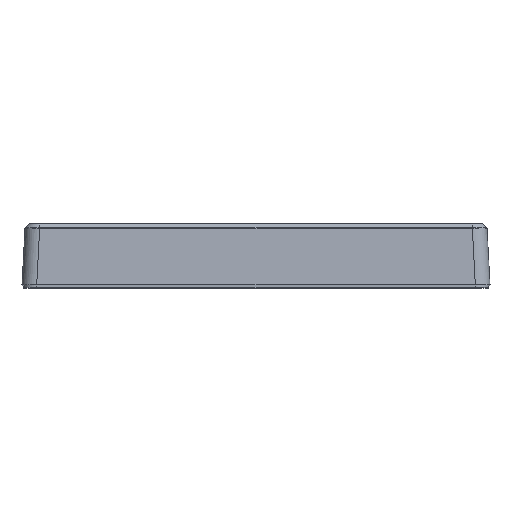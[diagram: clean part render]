
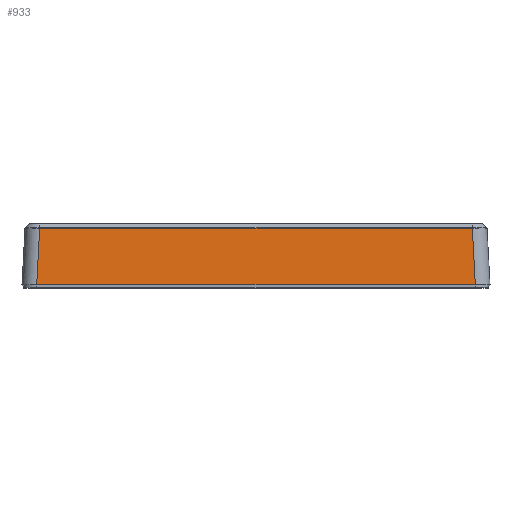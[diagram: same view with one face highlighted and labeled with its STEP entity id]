
A CAD part, top view. The second image highlights one B-rep face of the part: STEP entity #933.
In plain terms, the highlighted planar face has unit normal (0, 0.052, 0.999).
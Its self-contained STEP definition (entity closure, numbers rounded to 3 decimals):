
#756 = VERTEX_POINT ( 'NONE', #1895 ) ;
#763 = EDGE_CURVE ( 'NONE', #934, #783, #2060, .T. ) ;
#771 = EDGE_CURVE ( 'NONE', #756, #783, #2046, .T. ) ;
#782 = ORIENTED_EDGE ( 'NONE', *, *, #771, .T. ) ;
#783 = VERTEX_POINT ( 'NONE', #2136 ) ;
#907 = EDGE_CURVE ( 'NONE', #927, #756, #2279, .T. ) ;
#914 = ORIENTED_EDGE ( 'NONE', *, *, #907, .T. ) ;
#919 = ORIENTED_EDGE ( 'NONE', *, *, #763, .F. ) ;
#925 = ORIENTED_EDGE ( 'NONE', *, *, #926, .T. ) ;
#926 = EDGE_CURVE ( 'NONE', #934, #927, #2223, .T. ) ;
#927 = VERTEX_POINT ( 'NONE', #2219 ) ;
#932 = EDGE_LOOP ( 'NONE', ( #925, #914, #782, #919 ) ) ;
#933 = ADVANCED_FACE ( 'NONE', ( #2209 ), #2208, .T. ) ;
#934 = VERTEX_POINT ( 'NONE', #2082 ) ;
#1895 = CARTESIAN_POINT ( 'NONE',  ( -88.241, 24.178, 118.733 ) ) ;
#2043 = DIRECTION ( 'NONE',  ( -0.052, -0.997, 0.052 ) ) ;
#2044 = VECTOR ( 'NONE', #2043, 1000. ) ;
#2045 = CARTESIAN_POINT ( 'NONE',  ( -89.525, -0.312, 120.016 ) ) ;
#2046 = LINE ( 'NONE', #2045, #2044 ) ;
#2057 = DIRECTION ( 'NONE',  ( -1., 0., 0. ) ) ;
#2058 = VECTOR ( 'NONE', #2057, 1000. ) ;
#2059 = CARTESIAN_POINT ( 'NONE',  ( -95.5, 1., 119.948 ) ) ;
#2060 = LINE ( 'NONE', #2059, #2058 ) ;
#2082 = CARTESIAN_POINT ( 'NONE',  ( 89.456, 1., 119.948 ) ) ;
#2136 = CARTESIAN_POINT ( 'NONE',  ( -89.456, 1., 119.948 ) ) ;
#2203 = DIRECTION ( 'NONE',  ( 0., -0.999, 0.052 ) ) ;
#2204 = DIRECTION ( 'NONE',  ( 0., 0.052, 0.999 ) ) ;
#2205 = CARTESIAN_POINT ( 'NONE',  ( -95.5, 0., 120. ) ) ;
#2206 = AXIS2_PLACEMENT_3D ( 'NONE', #2205, #2204, #2203 ) ;
#2208 = PLANE ( 'NONE',  #2206 ) ;
#2209 = FACE_OUTER_BOUND ( 'NONE', #932, .T. ) ;
#2219 = CARTESIAN_POINT ( 'NONE',  ( 88.241, 24.178, 118.733 ) ) ;
#2220 = DIRECTION ( 'NONE',  ( -0.052, 0.997, -0.052 ) ) ;
#2221 = VECTOR ( 'NONE', #2220, 1000. ) ;
#2222 = CARTESIAN_POINT ( 'NONE',  ( 89.003, 9.643, 119.495 ) ) ;
#2223 = LINE ( 'NONE', #2222, #2221 ) ;
#2276 = DIRECTION ( 'NONE',  ( -1., 0., 0. ) ) ;
#2277 = VECTOR ( 'NONE', #2276, 1000. ) ;
#2278 = CARTESIAN_POINT ( 'NONE',  ( -88.235, 24.178, 118.733 ) ) ;
#2279 = LINE ( 'NONE', #2278, #2277 ) ;
